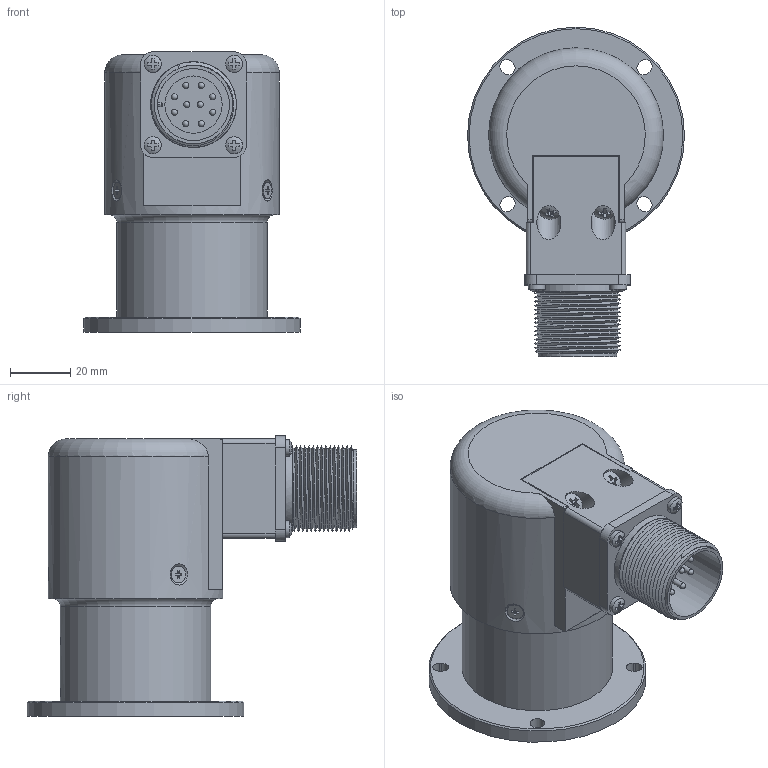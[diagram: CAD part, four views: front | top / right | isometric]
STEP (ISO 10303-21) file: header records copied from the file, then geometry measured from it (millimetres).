
FILE_DESCRIPTION( ( 'Unknown' ), '1' );
FILE_NAME( 'C:/Users/malfermoa/Desktop/step/EL_72A_albero 10 S uscita MR.stp', 'Unknown', ( 'Unknown' ), ( 'Unknown' ), 'PSStep 15.0.49', 'Unknown', ' ' );
FILE_SCHEMA( ( 'AUTOMOTIVE_DESIGN { 1 0 10303 214 1 1 1 1 }' ) );
Length unit declared in the file: millimetre
Products named in the file (11): 23310052
Bounding box: 72 x 109.5 x 93 mm (x, y, z)
Volume: 142995.4 mm3; surface area: 68697.1 mm2
Topology: 11 solids, 26 shells, 675 faces, 1719 edges, 1112 vertices
Faces by surface type: plane 293, cylinder 233, bspline 69, cone 40, sphere 22, torus 18
Full cylindrical faces by diameter (mm): 2 x22, 2.013 x2, 2.2 x12, 2.459 x6, 2.5 x4, 2.6 x10, 3 x6, 3.5 x3, 4.5 x2, 4.917 x2, 5.6 x7, 6 x1, 7 x1, 8 x2, 10 x10, 10.5 x1, 11 x1, 12 x1, 13.8 x1, 14.5 x2, 19 x1, 21.2 x2, 21.998 x2, 22 x1, 23 x1, 23.9 x1, 24 x1, 26 x14, 26.15 x1, 28.4 x1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
Entity records: 41458 total; most frequent: CARTESIAN_POINT 22722, ORIENTED_EDGE 2618, DIRECTION 2564, EDGE_CURVE 1309, AXIS2_PLACEMENT_3D 983, VERTEX_POINT 964, EDGE_LOOP 904, FACE_OUTER_BOUND 758
